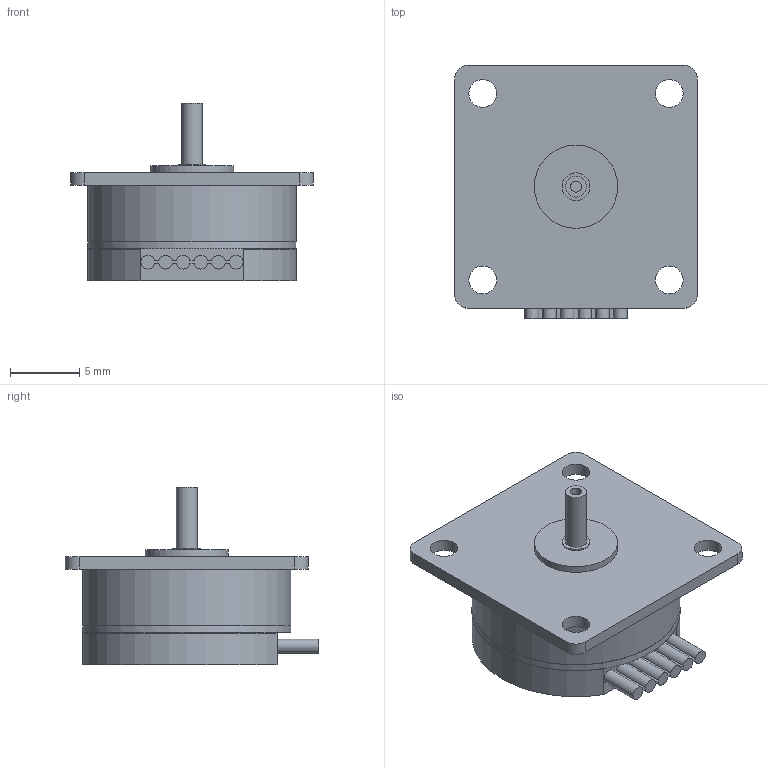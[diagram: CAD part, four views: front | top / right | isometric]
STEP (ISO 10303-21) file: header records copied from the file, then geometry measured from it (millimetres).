
FILE_DESCRIPTION(/* description */ (''),/* implementation_level */ '2;1');
FILE_NAME(/* name */ '1506N_SR_IE2-8_X3697.stp',/* time_stamp */ '2017-07-13T13:53:29+02:00',/* author */ ('DR. FRITZ FAULHABER GmbH & Co. KG'),/* organization */ ('DR. FRITZ FAULHABER GmbH & Co. KG'),/* preprocessor_version */ 'ST-DEVELOPER v16',/* originating_system */ 'SIEMENS PLM Software NX 10.0',/* authorisation */ '');
FILE_SCHEMA (('AUTOMOTIVE_DESIGN { 1 0 10303 214 3 1 1 1 }'));
Length unit declared in the file: millimetre
Products named in the file (1): Alle_Motoren
Bounding box: 17.5 x 18.25 x 12.8 mm (x, y, z)
Volume: 1507.6 mm3; surface area: 1088.9 mm2
Topology: 1 solids, 1 shells, 54 faces, 134 edges, 91 vertices
Faces by surface type: cylinder 27, plane 27
Full cylindrical faces by diameter (mm): 0.801 x1, 1.5 x1, 2 x5, 6 x1, 14.99 x1, 15 x2
Entity records: 1581 total; most frequent: DIRECTION 280, CARTESIAN_POINT 271, ORIENTED_EDGE 236, EDGE_CURVE 118, AXIS2_PLACEMENT_3D 108, VERTEX_POINT 86, EDGE_LOOP 82, LINE 64
